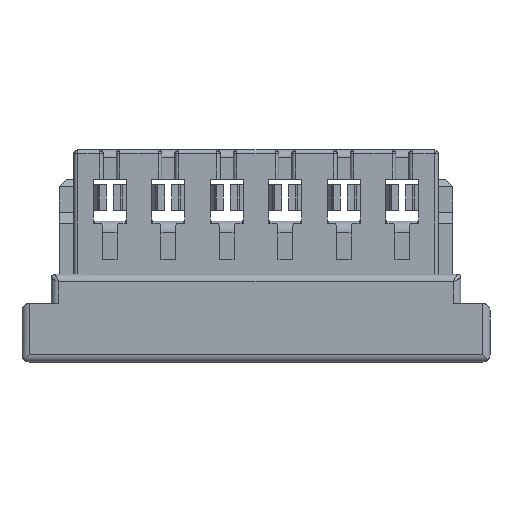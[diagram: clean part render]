
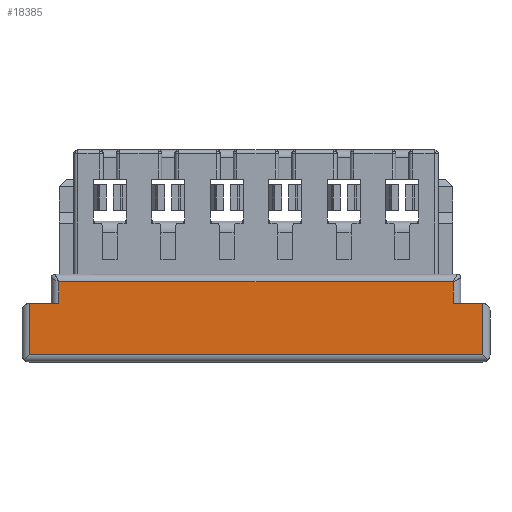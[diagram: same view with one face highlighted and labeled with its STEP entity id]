
A CAD part, front view. The second image highlights one B-rep face of the part: STEP entity #18385.
In plain terms, the highlighted planar face has unit normal (0, -1, 0).
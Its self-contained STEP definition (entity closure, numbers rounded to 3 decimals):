
#454=DIRECTION('',(-1.,0.,0.));
#455=VECTOR('',#454,6.2);
#456=CARTESIAN_POINT('',(-10.5,0.,0.1));
#457=LINE('',#456,#455);
#506=DIRECTION('',(0.,0.,-1.));
#507=VECTOR('',#506,0.7);
#508=CARTESIAN_POINT('',(-10.5,0.,0.8));
#509=LINE('',#508,#507);
#638=DIRECTION('',(-1.,0.,0.));
#639=VECTOR('',#638,0.4);
#640=CARTESIAN_POINT('',(-10.5,0.,0.8));
#641=LINE('',#640,#639);
#642=DIRECTION('',(1.,0.,0.));
#643=VECTOR('',#642,5.4);
#644=CARTESIAN_POINT('',(-16.3,0.,1.1));
#645=LINE('',#644,#643);
#654=CARTESIAN_POINT('',(-16.3,0.,1.1));
#7023=DIRECTION('',(1.,0.,0.));
#7024=VECTOR('',#7023,0.4);
#7025=CARTESIAN_POINT('',(-16.7,0.,0.8));
#7026=LINE('',#7025,#7024);
#7041=DIRECTION('',(0.,0.,1.));
#7042=VECTOR('',#7041,0.3);
#7043=CARTESIAN_POINT('',(-16.3,0.,0.8));
#7044=LINE('',#7043,#7042);
#7066=CARTESIAN_POINT('',(-16.7,0.,0.8));
#7076=DIRECTION('',(0.,0.,1.));
#7077=VECTOR('',#7076,0.7);
#7078=CARTESIAN_POINT('',(-16.7,0.,0.1));
#7079=LINE('',#7078,#7077);
#9643=CARTESIAN_POINT('',(-10.9,0.,1.1));
#9645=DIRECTION('',(0.,0.,-1.));
#9646=VECTOR('',#9645,0.3);
#9647=CARTESIAN_POINT('',(-10.9,0.,1.1));
#9648=LINE('',#9647,#9646);
#15455=VERTEX_POINT('',#7066);
#15456=CARTESIAN_POINT('',(-16.7,0.,0.1));
#15457=VERTEX_POINT('',#15456);
#15576=VERTEX_POINT('',#654);
#16497=CARTESIAN_POINT('',(-16.3,0.,0.8));
#16498=VERTEX_POINT('',#16497);
#16501=VERTEX_POINT('',#9643);
#16887=CARTESIAN_POINT('',(-10.9,0.,0.8));
#16888=VERTEX_POINT('',#16887);
#16889=CARTESIAN_POINT('',(-10.5,0.,0.8));
#16890=VERTEX_POINT('',#16889);
#16891=CARTESIAN_POINT('',(-10.5,0.,0.1));
#16892=VERTEX_POINT('',#16891);
#18365=CARTESIAN_POINT('',(-5.2,0.,0.8));
#18366=DIRECTION('',(0.,1.,0.));
#18367=DIRECTION('',(0.,0.,-1.));
#18368=AXIS2_PLACEMENT_3D('',#18365,#18366,#18367);
#18369=PLANE('',#18368);
#18371=ORIENTED_EDGE('',*,*,#18370,.T.);
#18373=ORIENTED_EDGE('',*,*,#18372,.T.);
#18374=ORIENTED_EDGE('',*,*,#18354,.F.);
#18375=ORIENTED_EDGE('',*,*,#18190,.T.);
#18376=ORIENTED_EDGE('',*,*,#18154,.T.);
#18378=ORIENTED_EDGE('',*,*,#18377,.T.);
#18380=ORIENTED_EDGE('',*,*,#18379,.T.);
#18382=ORIENTED_EDGE('',*,*,#18381,.T.);
#18383=EDGE_LOOP('',(#18371,#18373,#18374,#18375,#18376,#18378,#18380,#18382));
#18384=FACE_OUTER_BOUND('',#18383,.F.);
#18385=ADVANCED_FACE('',(#18384),#18369,.F.);
#18154=EDGE_CURVE('',#16892,#15457,#457,.T.);
#18190=EDGE_CURVE('',#16890,#16892,#509,.T.);
#18354=EDGE_CURVE('',#16890,#16888,#641,.T.);
#18370=EDGE_CURVE('',#15576,#16501,#645,.T.);
#18372=EDGE_CURVE('',#16501,#16888,#9648,.T.);
#18377=EDGE_CURVE('',#15457,#15455,#7079,.T.);
#18379=EDGE_CURVE('',#15455,#16498,#7026,.T.);
#18381=EDGE_CURVE('',#16498,#15576,#7044,.T.);
